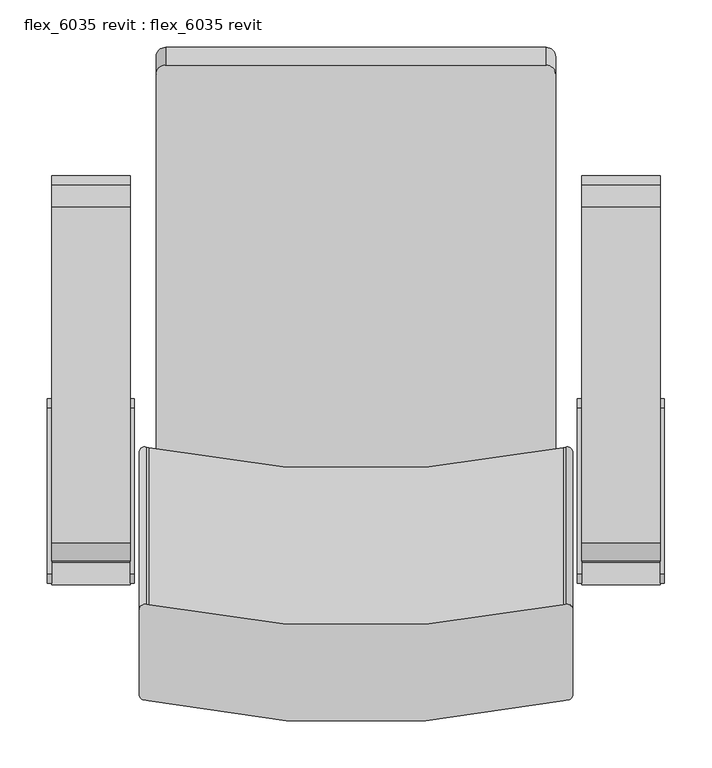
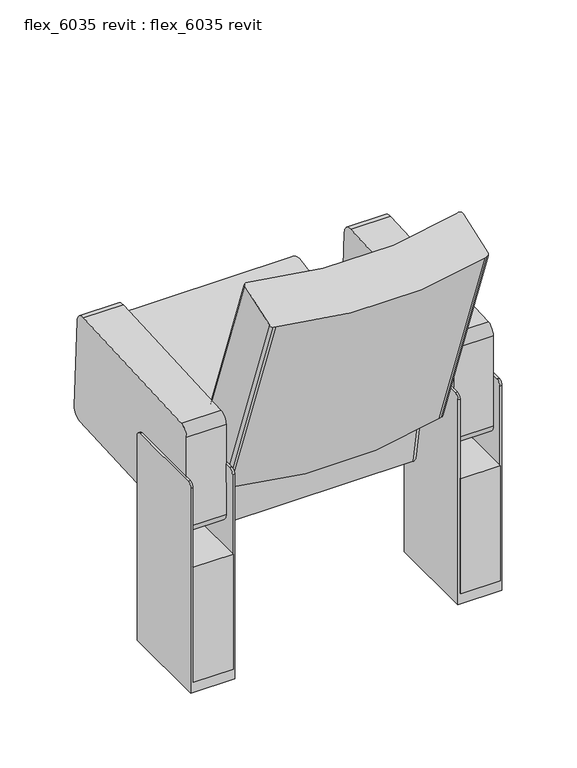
"""IFC4 building model written with IfcOpenShell, lengths in millimetres: furniture geometry, flex_6035 revit : flex_6035 revit."""

from ifc_helpers import new_model, si_unit, point, frame, frame_2d, origin, place, context, project, spatial, polyline, circle_curve, trimmed, segment, composite_curve, outline, extrude, source, transform, mapped, element, save
from ifc_brep_helpers import plane_surface, cylinder_surface, advanced_brep


def flex_6035_revit_flex_6035_revit_8256f512(model_context):
    return source(origin(), model_context, "Body", "SolidModel", [
        extrude(outline(polyline([(-238.5, 2.5), (-238.5, -196.5), (-321.5, -196.5), (-321.5, 2.5), (-238.5, 2.5)])), frame((0.0, 0.0, 24.0), z_axis=(0.0, 0.0, 1.0), x_axis=(1.0, 0.0, 0.0)), (0.0, 0.0, 1.0), 255.0),
        extrude(outline(polyline([(321.5, 2.5), (321.5, -196.5), (238.5, -196.5), (238.5, 2.5), (321.5, 2.5)])), frame((0.0, 0.0, 24.0), z_axis=(0.0, 0.0, 1.0), x_axis=(1.0, 0.0, 0.0)), (0.0, 0.0, 1.0), 255.0),
        advanced_brep(
        [(326.0, -10.0, 464.0), (326.0, -184.5, 464.0), (326.0, -194.5, 454.0), (326.0, -194.5, 0.0), (326.0, 0.0, 0.0), (326.0, 0.0, 454.0), (234.0, -10.0, 464.0), (234.0, 0.0, 454.0), (234.0, 0.0, 0.0), (234.0, -194.5, 0.0), (234.0, -194.5, 454.0), (234.0, -184.5, 464.0), (321.5, -10.0, 464.0), (321.5, -184.5, 464.0), (238.5, -184.5, 464.0), (238.5, -10.0, 464.0), (321.5, -194.5, 454.0), (238.5, -194.5, 454.0), (321.5, -194.5, 24.0), (238.5, -194.5, 24.0), (238.5, 0.0, 454.0), (238.5, 0.0, 24.0), (321.5, 0.0, 24.0), (321.5, 0.0, 454.0)],
        [
            (0, 1),
            (1, 2, circle_curve(frame((326.0, -184.5, 454.0), z_axis=(1.0, 0.0, 0.0), x_axis=(0.0, 1.0, 0.0)), 10.0)),
            (2, 3),
            (3, 4),
            (4, 5),
            (5, 0, circle_curve(frame((326.0, -10.0, 454.0), z_axis=(1.0, 0.0, 0.0), x_axis=(0.0, 1.0, 0.0)), 10.0)),
            (6, 7, circle_curve(frame((234.0, -10.0, 454.0), z_axis=(-1.0, 0.0, 0.0), x_axis=(0.0, 1.0, 0.0)), 10.0)),
            (7, 8),
            (8, 9),
            (9, 10),
            (10, 11, circle_curve(frame((234.0, -184.5, 454.0), z_axis=(-1.0, 0.0, 0.0), x_axis=(0.0, 1.0, 0.0)), 10.0)),
            (11, 6),
            (0, 12),
            (12, 13),
            (13, 1),
            (11, 14),
            (14, 15),
            (15, 6),
            (13, 16, circle_curve(frame((321.5, -184.5, 454.0), z_axis=(1.0, 0.0, 0.0), x_axis=(0.0, 1.0, 0.0)), 10.0)),
            (16, 2),
            (10, 17),
            (17, 14, circle_curve(frame((238.5, -184.5, 454.0), z_axis=(-1.0, 0.0, 0.0), x_axis=(0.0, 1.0, 0.0)), 10.0)),
            (16, 18),
            (18, 19),
            (19, 17),
            (9, 3),
            (8, 4),
            (7, 20),
            (20, 21),
            (21, 22),
            (22, 23),
            (23, 5),
            (15, 20, circle_curve(frame((238.5, -10.0, 454.0), z_axis=(-1.0, 0.0, 0.0), x_axis=(0.0, 1.0, 0.0)), 10.0)),
            (23, 12, circle_curve(frame((321.5, -10.0, 454.0), z_axis=(1.0, 0.0, 0.0), x_axis=(0.0, 1.0, 0.0)), 10.0)),
            (19, 21),
            (18, 22),
        ],
        [
            plane_surface(frame((326.0, -189.5, 464.0), z_axis=(1.0, 0.0, 0.0), x_axis=(0.0, 1.0, 0.0))),
            plane_surface(frame((234.0, -189.5, 464.0), z_axis=(-1.0, 0.0, 0.0), x_axis=(0.0, -1.0, 0.0))),
            plane_surface(frame((234.0, -10.0, 464.0), z_axis=(0.0, 0.0, 1.0), x_axis=(1.0, 0.0, 0.0))),
            cylinder_surface(frame((326.0, -184.5, 454.0), z_axis=(-1.0, 0.0, 0.0), x_axis=(0.0, 1.0, 0.0)), 10.0),
            plane_surface(frame((234.0, -194.5, 454.0), z_axis=(0.0, -1.0, 0.0), x_axis=(1.0, 0.0, 0.0))),
            plane_surface(frame((234.0, -194.5, 0.0), z_axis=(0.0, 0.0, -1.0), x_axis=(1.0, 0.0, 0.0))),
            plane_surface(frame((234.0, 0.0, 0.0), z_axis=(0.0, 1.0, 0.0), x_axis=(1.0, 0.0, 0.0))),
            cylinder_surface(frame((326.0, -10.0, 454.0), z_axis=(-1.0, 0.0, 0.0), x_axis=(0.0, 1.0, 0.0)), 10.0),
            plane_surface(frame((238.5, 99.040512, 484.0), z_axis=(1.0, 0.0, 0.0), x_axis=(0.0, -1.0, 0.0))),
            plane_surface(frame((238.5, 99.040512, 24.0), z_axis=(0.0, 0.0, 1.0), x_axis=(0.0, -1.0, 0.0))),
            plane_surface(frame((321.5, 99.040512, 24.0), z_axis=(-1.0, 0.0, 0.0), x_axis=(0.0, -1.0, 0.0))),
        ],
        [
            (0, [[1, 2, 3, 4, 5, 6]]),
            (1, [[7, 8, 9, 10, 11, 12]]),
            (2, [[13, 14, 15, -1]]),
            (2, [[16, 17, 18, -12]]),
            (3, [[-15, 19, 20, -2]]),
            (3, [[21, 22, -16, -11]]),
            (4, [[-20, 23, 24, 25, -21, -10, 26, -3]]),
            (5, [[-26, -9, 27, -4]]),
            (6, [[-27, -8, 28, 29, 30, 31, 32, -5]]),
            (7, [[-18, 33, -28, -7]]),
            (7, [[-32, 34, -13, -6]]),
            (8, [[-29, -33, -17, -22, -25, 35]]),
            (9, [[-24, 36, -30, -35]]),
            (10, [[-23, -19, -14, -34, -31, -36]]),
        ],
    ),
        advanced_brep(
        [(-234.0, -10.0, 464.0), (-234.0, -184.5, 464.0), (-234.0, -194.5, 454.0), (-234.0, -194.5, 0.0), (-234.0, 0.0, 0.0), (-234.0, 0.0, 454.0), (-326.0, -10.0, 464.0), (-326.0, 0.0, 454.0), (-326.0, 0.0, 0.0), (-326.0, -194.5, 0.0), (-326.0, -194.5, 454.0), (-326.0, -184.5, 464.0), (-238.5, -10.0, 464.0), (-238.5, -184.5, 464.0), (-321.5, -184.5, 464.0), (-321.5, -10.0, 464.0), (-238.5, -194.5, 454.0), (-321.5, -194.5, 454.0), (-238.5, -194.5, 24.0), (-321.5, -194.5, 24.0), (-321.5, 0.0, 454.0), (-321.5, 0.0, 24.0), (-238.5, 0.0, 24.0), (-238.5, 0.0, 454.0)],
        [
            (0, 1),
            (1, 2, circle_curve(frame((-234.0, -184.5, 454.0), z_axis=(1.0, 0.0, 0.0), x_axis=(0.0, 1.0, 0.0)), 10.0)),
            (2, 3),
            (3, 4),
            (4, 5),
            (5, 0, circle_curve(frame((-234.0, -10.0, 454.0), z_axis=(1.0, 0.0, 0.0), x_axis=(0.0, 1.0, 0.0)), 10.0)),
            (6, 7, circle_curve(frame((-326.0, -10.0, 454.0), z_axis=(-1.0, 0.0, 0.0), x_axis=(0.0, 1.0, 0.0)), 10.0)),
            (7, 8),
            (8, 9),
            (9, 10),
            (10, 11, circle_curve(frame((-326.0, -184.5, 454.0), z_axis=(-1.0, 0.0, 0.0), x_axis=(0.0, 1.0, 0.0)), 10.0)),
            (11, 6),
            (0, 12),
            (12, 13),
            (13, 1),
            (11, 14),
            (14, 15),
            (15, 6),
            (13, 16, circle_curve(frame((-238.5, -184.5, 454.0), z_axis=(1.0, 0.0, 0.0), x_axis=(0.0, 1.0, 0.0)), 10.0)),
            (16, 2),
            (10, 17),
            (17, 14, circle_curve(frame((-321.5, -184.5, 454.0), z_axis=(-1.0, 0.0, 0.0), x_axis=(0.0, 1.0, 0.0)), 10.0)),
            (16, 18),
            (18, 19),
            (19, 17),
            (9, 3),
            (8, 4),
            (7, 20),
            (20, 21),
            (21, 22),
            (22, 23),
            (23, 5),
            (15, 20, circle_curve(frame((-321.5, -10.0, 454.0), z_axis=(-1.0, 0.0, 0.0), x_axis=(0.0, 1.0, 0.0)), 10.0)),
            (23, 12, circle_curve(frame((-238.5, -10.0, 454.0), z_axis=(1.0, 0.0, 0.0), x_axis=(0.0, 1.0, 0.0)), 10.0)),
            (19, 21),
            (18, 22),
        ],
        [
            plane_surface(frame((-234.0, -189.5, 464.0), z_axis=(1.0, 0.0, 0.0), x_axis=(0.0, 1.0, 0.0))),
            plane_surface(frame((-326.0, -189.5, 464.0), z_axis=(-1.0, 0.0, 0.0), x_axis=(0.0, -1.0, 0.0))),
            plane_surface(frame((-326.0, -10.0, 464.0), z_axis=(0.0, 0.0, 1.0), x_axis=(1.0, 0.0, 0.0))),
            cylinder_surface(frame((-234.0, -184.5, 454.0), z_axis=(-1.0, 0.0, 0.0), x_axis=(0.0, 1.0, 0.0)), 10.0),
            plane_surface(frame((-326.0, -194.5, 454.0), z_axis=(0.0, -1.0, 0.0), x_axis=(1.0, 0.0, 0.0))),
            plane_surface(frame((-326.0, -194.5, 0.0), z_axis=(0.0, 0.0, -1.0), x_axis=(1.0, 0.0, 0.0))),
            plane_surface(frame((-326.0, 0.0, 0.0), z_axis=(0.0, 1.0, 0.0), x_axis=(1.0, 0.0, 0.0))),
            cylinder_surface(frame((-234.0, -10.0, 454.0), z_axis=(-1.0, 0.0, 0.0), x_axis=(0.0, 1.0, 0.0)), 10.0),
            plane_surface(frame((-321.5, 99.040512, 484.0), z_axis=(1.0, 0.0, 0.0), x_axis=(0.0, -1.0, 0.0))),
            plane_surface(frame((-321.5, 99.040512, 24.0), z_axis=(0.0, 0.0, 1.0), x_axis=(0.0, -1.0, 0.0))),
            plane_surface(frame((-238.5, 99.040512, 24.0), z_axis=(-1.0, 0.0, 0.0), x_axis=(0.0, -1.0, 0.0))),
        ],
        [
            (0, [[1, 2, 3, 4, 5, 6]]),
            (1, [[7, 8, 9, 10, 11, 12]]),
            (2, [[13, 14, 15, -1]]),
            (2, [[16, 17, 18, -12]]),
            (3, [[-15, 19, 20, -2]]),
            (3, [[21, 22, -16, -11]]),
            (4, [[-20, 23, 24, 25, -21, -10, 26, -3]]),
            (5, [[-26, -9, 27, -4]]),
            (6, [[-27, -8, 28, 29, 30, 31, 32, -5]]),
            (7, [[-18, 33, -28, -7]]),
            (7, [[-32, 34, -13, -6]]),
            (8, [[-29, -33, -17, -22, -25, 35]]),
            (9, [[-24, 36, -30, -35]]),
            (10, [[-23, -19, -14, -34, -31, -36]]),
        ],
    ),
        extrude(outline(composite_curve([segment(trimmed(circle_curve(frame_2d((0.0, 6.0)), 6.0), [point((0.0, 12.0))], [point((5.8412433, 7.3710863))], False, "CARTESIAN"), True, "CONTINUOUS"), segment(polyline([(5.8412433, 7.3710863), (7.1019719, 2.0)]), True, "CONTINUOUS"), segment(trimmed(circle_curve(frame_2d((-948.3795436, -217.0)), 980.2580918), [point((7.1019719, 2.0))], [point((7.1019719, -436.0))], False, "CARTESIAN"), True, "CONTINUOUS"), segment(polyline([(7.1019719, -436.0), (5.8779174, -441.3404633)]), True, "CONTINUOUS"), segment(trimmed(circle_curve(frame_2d((0.0295707, -440.0)), 6.0), [point((5.8779174, -441.3404633))], [point((0.0295707, -446.0))], False, "CARTESIAN"), True, "CONTINUOUS"), segment(polyline([(0.0295707, -446.0), (-95.7169569, -446.0)]), True, "CONTINUOUS"), segment(trimmed(circle_curve(frame_2d((-95.7169569, -440.0)), 6.0), [point((-95.7169569, -446.0))], [point((-101.5653035, -438.6595367))], False, "CARTESIAN"), True, "CONTINUOUS"), segment(polyline([(-101.5653035, -438.6595367), (-100.9557275, -436.0)]), True, "CONTINUOUS"), segment(trimmed(circle_curve(frame_2d((-1056.4372431, -217.0)), 980.2580918), [point((-100.9557275, -436.0))], [point((-100.9557275, 2.0))], True, "CARTESIAN"), True, "CONTINUOUS"), segment(polyline([(-100.9557275, 2.0), (-101.5727996, 4.6289137)]), True, "CONTINUOUS"), segment(trimmed(circle_curve(frame_2d((-95.7315564, 6.0)), 6.0), [point((-101.5727996, 4.6289137))], [point((-95.7315564, 12.0))], False, "CARTESIAN"), True, "CONTINUOUS"), segment(polyline([(-95.7315564, 12.0), (0.0, 12.0)]), True, "CONTINUOUS")], self_intersect=False)), frame((217.0, -146.2253989, 395.8767632), z_axis=(0.0, -0.342020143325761, 0.9396926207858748), x_axis=(0.0, -0.9396926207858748, -0.342020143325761)), (0.0, 0.0, 1.0), 486.0892767),
        extrude(outline(composite_curve([segment(polyline([(10.0000001, 10.0), (10.0000001, -392.0)]), True, "CONTINUOUS"), segment(trimmed(circle_curve(frame_2d((0.0, -392.0)), 10.0), [point((10.0000001, -392.0))], [point((0.0, -402.0))], False, "CARTESIAN"), True, "CONTINUOUS"), segment(polyline([(0.0, -402.0), (-446.0, -402.0)]), True, "CONTINUOUS"), segment(trimmed(circle_curve(frame_2d((-446.0, -392.0)), 10.0), [point((-446.0, -402.0))], [point((-456.0, -392.0))], False, "CARTESIAN"), True, "CONTINUOUS"), segment(polyline([(-456.0, -392.0), (-456.0, 10.0)]), True, "CONTINUOUS"), segment(trimmed(circle_curve(frame_2d((-446.0, 10.0)), 10.0), [point((-456.0, 10.0))], [point((-446.0, 20.0))], False, "CARTESIAN"), True, "CONTINUOUS"), segment(polyline([(-446.0, 20.0), (0.0, 20.0)]), True, "CONTINUOUS"), segment(trimmed(circle_curve(frame_2d((0.0, 10.0)), 10.0), [point((0.0, 20.0))], [point((10.0000001, 10.0))], False, "CARTESIAN"), True, "CONTINUOUS")], self_intersect=False)), frame((-191.0, 361.5575898, 343.6215361), z_axis=(0.0, -0.1736481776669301, 0.9848077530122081), x_axis=(0.0, 0.9848077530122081, 0.1736481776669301)), (0.0, 0.0, 1.0), 107.8231806),
        extrude(outline(composite_curve([segment(trimmed(circle_curve(frame_2d((215.9009042, 372.1247098)), 20.0), [point((235.8734949, 373.1714289))], [point((216.9476233, 352.1521191))], False, "CARTESIAN"), True, "CONTINUOUS"), segment(polyline([(216.9476233, 352.1521191), (-151.4899662, 332.8431232)]), True, "CONTINUOUS"), segment(trimmed(circle_curve(frame_2d((-152.5366853, 352.8157139)), 20.0), [point((-151.4899662, 332.8431232))], [point((-172.5360593, 352.9739495))], False, "CARTESIAN"), True, "CONTINUOUS"), segment(polyline([(-172.5360593, 352.9739495), (-170.9666775, 551.3279218)]), True, "CONTINUOUS"), segment(trimmed(circle_curve(frame_2d((-150.9673035, 551.1696862)), 20.0), [point((-170.9666775, 551.3279218))], [point((-152.0140226, 571.1422769))], False, "CARTESIAN"), True, "CONTINUOUS"), segment(polyline([(-152.0140226, 571.1422769), (202.8773297, 589.7413446)]), True, "CONTINUOUS"), segment(trimmed(circle_curve(frame_2d((204.0086526, 568.1544179)), 21.6165514), [point((202.8773297, 589.7413446))], [point((225.5955793, 569.2857408))], False, "CARTESIAN"), True, "CONTINUOUS"), segment(polyline([(225.5955793, 569.2857408), (235.8734949, 373.1714289)]), True, "CONTINUOUS")], self_intersect=False)), frame((238.5, 0.0, 0.0), z_axis=(1.0, 0.0, 0.0), x_axis=(0.0, 1.0, 0.0)), (0.0, 0.0, 1.0), 83.0),
        extrude(outline(composite_curve([segment(trimmed(circle_curve(frame_2d((215.9009042, 372.1247098)), 20.0), [point((235.8734949, 373.1714289))], [point((216.9476233, 352.1521191))], False, "CARTESIAN"), True, "CONTINUOUS"), segment(polyline([(216.9476233, 352.1521191), (-151.4899662, 332.8431232)]), True, "CONTINUOUS"), segment(trimmed(circle_curve(frame_2d((-152.5366853, 352.8157139)), 20.0), [point((-151.4899662, 332.8431232))], [point((-172.5360593, 352.9739495))], False, "CARTESIAN"), True, "CONTINUOUS"), segment(polyline([(-172.5360593, 352.9739495), (-170.9666775, 551.3279218)]), True, "CONTINUOUS"), segment(trimmed(circle_curve(frame_2d((-150.9673035, 551.1696862)), 20.0), [point((-170.9666775, 551.3279218))], [point((-152.0140226, 571.1422769))], False, "CARTESIAN"), True, "CONTINUOUS"), segment(polyline([(-152.0140226, 571.1422769), (202.8773297, 589.7413446)]), True, "CONTINUOUS"), segment(trimmed(circle_curve(frame_2d((204.0086526, 568.1544179)), 21.6165514), [point((202.8773297, 589.7413446))], [point((225.5955793, 569.2857408))], False, "CARTESIAN"), True, "CONTINUOUS"), segment(polyline([(225.5955793, 569.2857408), (235.8734949, 373.1714289)]), True, "CONTINUOUS")], self_intersect=False)), frame((-321.5, 0.0, 0.0), z_axis=(1.0, 0.0, 0.0), x_axis=(0.0, 1.0, 0.0)), (0.0, 0.0, 1.0), 83.0),
    ])


if __name__ == "__main__":
    model = new_model("IFC4")
    model_context = context("Model", 3, world=origin())
    ifc_project = project(units=[si_unit("LENGTHUNIT", "METRE", prefix="MILLI")], contexts=[model_context])
    site = spatial("IfcSite", under=ifc_project)
    building = spatial("IfcBuilding", under=site)
    placement = place(None, origin())
    flex_6035_revit_flex_6035_revit_shape = flex_6035_revit_flex_6035_revit_8256f512(model_context)
    element("IfcFurniture", 1, ObjectType="flex_6035 revit : flex_6035 revit", at=placement, inside=building, context=model_context, shape_type="MappedRepresentation", body=[
        mapped(flex_6035_revit_flex_6035_revit_shape, transform((0.0, 0.0, 0.0), x_axis=(1.0, 0.0, 0.0), y_axis=(0.0, 1.0, 0.0), z_axis=(0.0, 0.0, 1.0))),
    ])
    save(model, "model.ifc")
